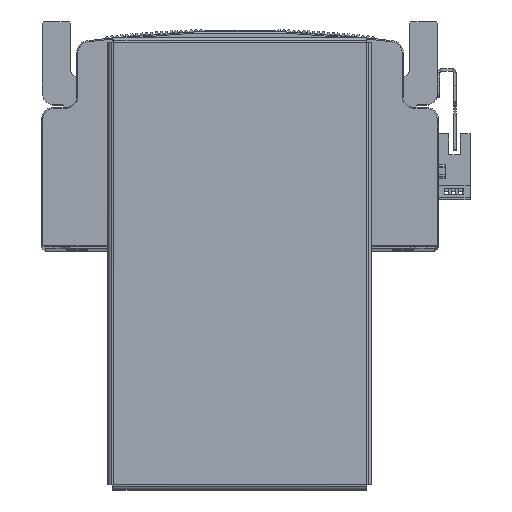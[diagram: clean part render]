
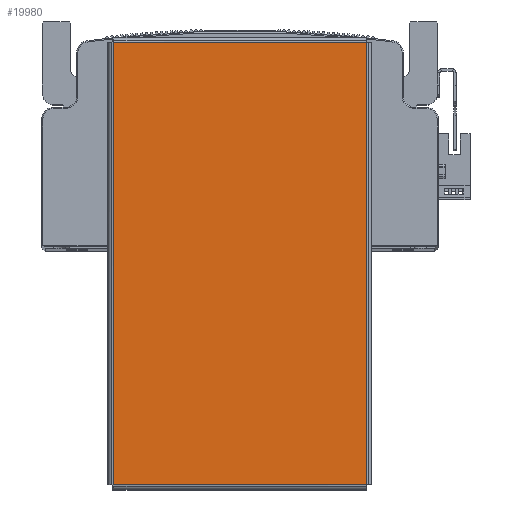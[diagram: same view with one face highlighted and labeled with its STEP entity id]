
A CAD part, top view. The second image highlights one B-rep face of the part: STEP entity #19980.
In plain terms, the highlighted planar face has unit normal (0, 0, 1) as drawn and (0, -1, 0) by its records, which use the part's own axes.
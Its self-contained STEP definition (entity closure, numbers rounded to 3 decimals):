
#1283 = FACE_OUTER_BOUND ( 'NONE', #23481, .T. ) ;
#17242 = AXIS2_PLACEMENT_3D ( 'NONE', #27710, #27692, #27700 ) ;
#19980 = ADVANCED_FACE ( 'NONE', ( #1283 ), #27673, .F. ) ;
#23481 = EDGE_LOOP ( 'NONE', ( #32969, #32992, #32991, #34782 ) ) ;
#27673 = PLANE ( 'NONE',  #17242 ) ;
#27692 = DIRECTION ( 'NONE',  ( 0., 1., 0. ) ) ;
#27700 = DIRECTION ( 'NONE',  ( 0., 0., 1. ) ) ;
#27710 = CARTESIAN_POINT ( 'NONE',  ( 0., -1.5, 0. ) ) ;
#32969 = ORIENTED_EDGE ( 'NONE', *, *, #42422, .T. ) ;
#32991 = ORIENTED_EDGE ( 'NONE', *, *, #42475, .T. ) ;
#32992 = ORIENTED_EDGE ( 'NONE', *, *, #42513, .T. ) ;
#34782 = ORIENTED_EDGE ( 'NONE', *, *, #42413, .T. ) ;
#42413 = EDGE_CURVE ( 'NONE', #64242, #64370, #63630, .T. ) ;
#42422 = EDGE_CURVE ( 'NONE', #64370, #64079, #63755, .T. ) ;
#42475 = EDGE_CURVE ( 'NONE', #64290, #64242, #63906, .T. ) ;
#42513 = EDGE_CURVE ( 'NONE', #64079, #64290, #64032, .T. ) ;
#46837 = CARTESIAN_POINT ( 'NONE',  ( 94.763, -1.5, -54.393 ) ) ;
#46838 = DIRECTION ( 'NONE',  ( -1., 0., 0. ) ) ;
#46841 = CARTESIAN_POINT ( 'NONE',  ( 94.793, -1.5, 54.363 ) ) ;
#46844 = DIRECTION ( 'NONE',  ( 0., 0., 1. ) ) ;
#47512 = CARTESIAN_POINT ( 'NONE',  ( -94.763, -1.5, 54.363 ) ) ;
#47542 = CARTESIAN_POINT ( 'NONE',  ( -94.763, -1.5, -54.363 ) ) ;
#47572 = CARTESIAN_POINT ( 'NONE',  ( 94.763, -1.5, -54.363 ) ) ;
#47595 = CARTESIAN_POINT ( 'NONE',  ( 94.763, -1.5, 54.363 ) ) ;
#51856 = DIRECTION ( 'NONE',  ( 1., 0., 0. ) ) ;
#51882 = CARTESIAN_POINT ( 'NONE',  ( -94.793, -1.5, -54.363 ) ) ;
#51987 = CARTESIAN_POINT ( 'NONE',  ( -94.763, -1.5, 54.393 ) ) ;
#51991 = DIRECTION ( 'NONE',  ( 0., 0., -1. ) ) ;
#63630 = LINE ( 'NONE', #46837, #63715 ) ;
#63715 = VECTOR ( 'NONE', #46844, 1000. ) ;
#63755 = LINE ( 'NONE', #46841, #63769 ) ;
#63769 = VECTOR ( 'NONE', #46838, 1000. ) ;
#63880 = VECTOR ( 'NONE', #51856, 1000. ) ;
#63906 = LINE ( 'NONE', #51882, #63880 ) ;
#64032 = LINE ( 'NONE', #51987, #64058 ) ;
#64058 = VECTOR ( 'NONE', #51991, 1000. ) ;
#64079 = VERTEX_POINT ( 'NONE', #47512 ) ;
#64242 = VERTEX_POINT ( 'NONE', #47572 ) ;
#64290 = VERTEX_POINT ( 'NONE', #47542 ) ;
#64370 = VERTEX_POINT ( 'NONE', #47595 ) ;
